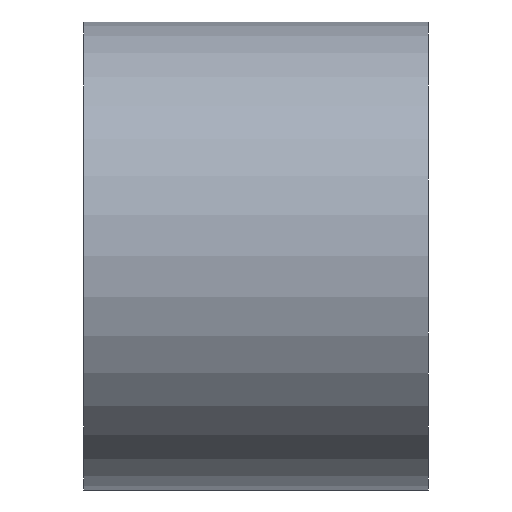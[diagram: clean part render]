
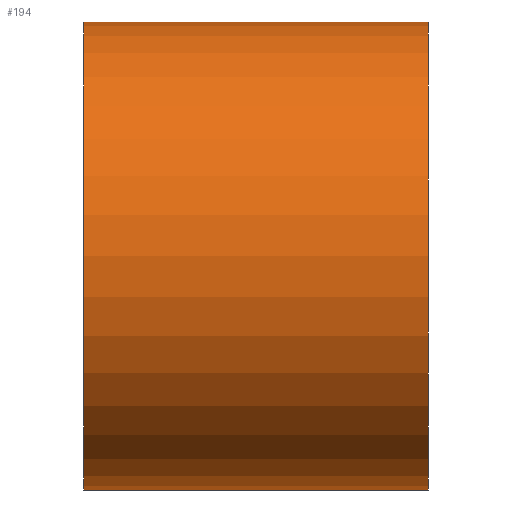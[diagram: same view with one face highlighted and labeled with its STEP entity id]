
A CAD part, left-side view. The second image highlights one B-rep face of the part: STEP entity #194.
In plain terms, the highlighted cylindrical face has radius 9.207 mm (diameter 18.415 mm), a partial arc.
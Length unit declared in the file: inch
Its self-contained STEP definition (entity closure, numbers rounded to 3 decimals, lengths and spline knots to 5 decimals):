
#2 = CARTESIAN_POINT ( 'NONE',  ( -0.5745, -0.1, 0. ) ) ;
#26 = ORIENTED_EDGE ( 'NONE', *, *, #376, .F. ) ;
#39 = EDGE_CURVE ( 'NONE', #439, #238, #64, .T. ) ;
#45 = VERTEX_POINT ( 'NONE', #441 ) ;
#56 = AXIS2_PLACEMENT_3D ( 'NONE', #57, #363, #125 ) ;
#57 = CARTESIAN_POINT ( 'NONE',  ( -0.5745, 0.433, 0. ) ) ;
#64 = CIRCLE ( 'NONE', #232, 0.3625 ) ;
#65 = DIRECTION ( 'NONE',  ( 1., 0., 0. ) ) ;
#76 = DIRECTION ( 'NONE',  ( 0., -1., 0. ) ) ;
#91 = CYLINDRICAL_SURFACE ( 'NONE', #56, 0.3625 ) ;
#94 = AXIS2_PLACEMENT_3D ( 'NONE', #99, #258, #65 ) ;
#99 = CARTESIAN_POINT ( 'NONE',  ( -0.5745, 0.433, 0. ) ) ;
#125 = DIRECTION ( 'NONE',  ( 0., 0., -1. ) ) ;
#129 = FACE_OUTER_BOUND ( 'NONE', #277, .T. ) ;
#158 = VECTOR ( 'NONE', #76, 39.37008 ) ;
#193 = ORIENTED_EDGE ( 'NONE', *, *, #437, .T. ) ;
#194 = ADVANCED_FACE ( 'NONE', ( #129 ), #91, .T. ) ;
#232 = AXIS2_PLACEMENT_3D ( 'NONE', #2, #265, #483 ) ;
#238 = VERTEX_POINT ( 'NONE', #286 ) ;
#258 = DIRECTION ( 'NONE',  ( 0., 1., 0. ) ) ;
#261 = EDGE_CURVE ( 'NONE', #45, #439, #335, .T. ) ;
#265 = DIRECTION ( 'NONE',  ( 0., -1., 0. ) ) ;
#268 = CARTESIAN_POINT ( 'NONE',  ( -0.5745, -0.1, 0.3625 ) ) ;
#271 = VERTEX_POINT ( 'NONE', #485 ) ;
#277 = EDGE_LOOP ( 'NONE', ( #193, #394, #325, #26 ) ) ;
#286 = CARTESIAN_POINT ( 'NONE',  ( -0.5745, -0.1, -0.3625 ) ) ;
#301 = VECTOR ( 'NONE', #448, 39.37008 ) ;
#308 = CIRCLE ( 'NONE', #94, 0.3625 ) ;
#325 = ORIENTED_EDGE ( 'NONE', *, *, #261, .F. ) ;
#335 = LINE ( 'NONE', #445, #301 ) ;
#363 = DIRECTION ( 'NONE',  ( 0., -1., 0. ) ) ;
#376 = EDGE_CURVE ( 'NONE', #271, #45, #308, .T. ) ;
#388 = LINE ( 'NONE', #464, #158 ) ;
#394 = ORIENTED_EDGE ( 'NONE', *, *, #39, .F. ) ;
#437 = EDGE_CURVE ( 'NONE', #271, #238, #388, .T. ) ;
#439 = VERTEX_POINT ( 'NONE', #268 ) ;
#441 = CARTESIAN_POINT ( 'NONE',  ( -0.5745, 0.433, 0.3625 ) ) ;
#445 = CARTESIAN_POINT ( 'NONE',  ( -0.5745, 0.433, 0.3625 ) ) ;
#448 = DIRECTION ( 'NONE',  ( 0., -1., 0. ) ) ;
#464 = CARTESIAN_POINT ( 'NONE',  ( -0.5745, 0.433, -0.3625 ) ) ;
#483 = DIRECTION ( 'NONE',  ( 0., 0., -1. ) ) ;
#485 = CARTESIAN_POINT ( 'NONE',  ( -0.5745, 0.433, -0.3625 ) ) ;
